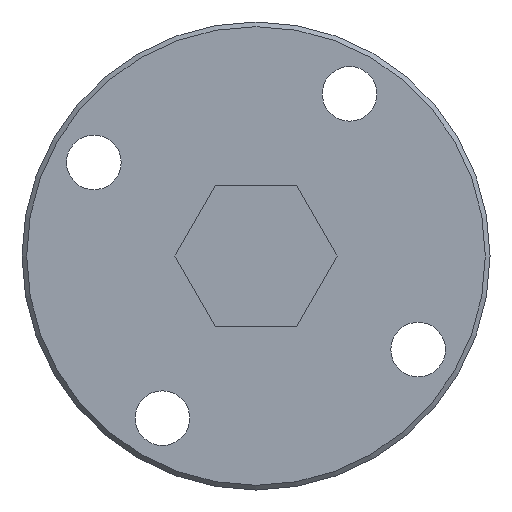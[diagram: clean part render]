
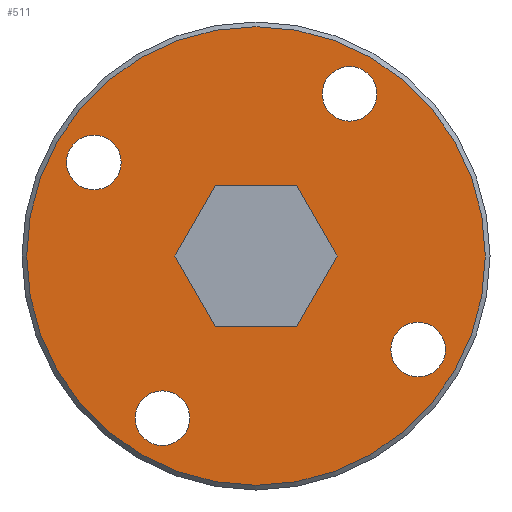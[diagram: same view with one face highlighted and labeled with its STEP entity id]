
A CAD part, left-side view. The second image highlights one B-rep face of the part: STEP entity #511.
In plain terms, the highlighted planar face has unit normal (-1, 0, 0).
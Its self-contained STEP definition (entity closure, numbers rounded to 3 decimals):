
#377=CARTESIAN_POINT('',(140.0,14.7,0.));
#378=VERTEX_POINT('',#377);
#379=CARTESIAN_POINT('',(140.0,0.0,0.0));
#380=DIRECTION('',(1.0,0.0,0.0));
#381=DIRECTION('',(0.0,-1.0,0.0));
#382=AXIS2_PLACEMENT_3D('',#379,#380,#381);
#383=CIRCLE('',#382,14.7);
#384=EDGE_CURVE('',#378,#378,#383,.T.);
#409=CARTESIAN_POINT('',(140.0,0.0,4.5));
#410=DIRECTION('',(-1.0,0.0,0.0));
#411=DIRECTION('',(0.0,0.0,1.0));
#412=AXIS2_PLACEMENT_3D('',#409,#410,#411);
#413=PLANE('',#412);
#414=ORIENTED_EDGE('',*,*,#384,.F.);
#415=EDGE_LOOP('',(#414));
#416=FACE_OUTER_BOUND('',#415,.T.);
#417=CARTESIAN_POINT('',(140.0,-2.598,-4.5));
#418=VERTEX_POINT('',#417);
#419=CARTESIAN_POINT('',(140.0,2.598,-4.5));
#420=VERTEX_POINT('',#419);
#421=CARTESIAN_POINT('',(140.0,-2.598,-4.5));
#422=DIRECTION('',(0.0,1.0,0.0));
#423=VECTOR('',#422,5.196);
#424=LINE('',#421,#423);
#425=EDGE_CURVE('',#418,#420,#424,.T.);
#426=ORIENTED_EDGE('',*,*,#425,.T.);
#427=CARTESIAN_POINT('',(140.0,5.196,0.));
#428=VERTEX_POINT('',#427);
#429=CARTESIAN_POINT('',(140.0,2.598,-4.5));
#430=DIRECTION('',(0.0,0.5,0.866));
#431=VECTOR('',#430,5.196);
#432=LINE('',#429,#431);
#433=EDGE_CURVE('',#420,#428,#432,.T.);
#434=ORIENTED_EDGE('',*,*,#433,.T.);
#435=CARTESIAN_POINT('',(140.0,2.598,4.5));
#436=VERTEX_POINT('',#435);
#437=CARTESIAN_POINT('',(140.0,5.196,0.));
#438=DIRECTION('',(0.0,-0.5,0.866));
#439=VECTOR('',#438,5.196);
#440=LINE('',#437,#439);
#441=EDGE_CURVE('',#428,#436,#440,.T.);
#442=ORIENTED_EDGE('',*,*,#441,.T.);
#443=CARTESIAN_POINT('',(140.0,-2.598,4.5));
#444=VERTEX_POINT('',#443);
#445=CARTESIAN_POINT('',(140.0,2.598,4.5));
#446=DIRECTION('',(0.0,-1.0,0.0));
#447=VECTOR('',#446,5.196);
#448=LINE('',#445,#447);
#449=EDGE_CURVE('',#436,#444,#448,.T.);
#450=ORIENTED_EDGE('',*,*,#449,.T.);
#451=CARTESIAN_POINT('',(140.0,-5.196,0.0));
#452=VERTEX_POINT('',#451);
#453=CARTESIAN_POINT('',(140.0,-2.598,4.5));
#454=DIRECTION('',(0.0,-0.5,-0.866));
#455=VECTOR('',#454,5.196);
#456=LINE('',#453,#455);
#457=EDGE_CURVE('',#444,#452,#456,.T.);
#458=ORIENTED_EDGE('',*,*,#457,.T.);
#459=CARTESIAN_POINT('',(140.0,-5.196,0.0));
#460=DIRECTION('',(0.0,0.5,-0.866));
#461=VECTOR('',#460,5.196);
#462=LINE('',#459,#461);
#463=EDGE_CURVE('',#452,#418,#462,.T.);
#464=ORIENTED_EDGE('',*,*,#463,.T.);
#465=EDGE_LOOP('',(#426,#434,#442,#450,#458,#464));
#466=FACE_BOUND('',#465,.T.);
#467=CARTESIAN_POINT('',(140.0,-4.25,10.392));
#468=VERTEX_POINT('',#467);
#469=CARTESIAN_POINT('',(140.0,-6.,10.392));
#470=DIRECTION('',(1.0,0.0,0.0));
#471=DIRECTION('',(0.0,1.0,0.0));
#472=AXIS2_PLACEMENT_3D('',#469,#470,#471);
#473=CIRCLE('',#472,1.75);
#474=EDGE_CURVE('',#468,#468,#473,.T.);
#475=ORIENTED_EDGE('',*,*,#474,.T.);
#476=EDGE_LOOP('',(#475));
#477=FACE_BOUND('',#476,.T.);
#478=CARTESIAN_POINT('',(140.0,-10.392,-4.25));
#479=VERTEX_POINT('',#478);
#480=CARTESIAN_POINT('',(140.0,-10.392,-6.));
#481=DIRECTION('',(1.0,0.0,0.0));
#482=DIRECTION('',(0.0,0.0,1.0));
#483=AXIS2_PLACEMENT_3D('',#480,#481,#482);
#484=CIRCLE('',#483,1.75);
#485=EDGE_CURVE('',#479,#479,#484,.T.);
#486=ORIENTED_EDGE('',*,*,#485,.T.);
#487=EDGE_LOOP('',(#486));
#488=FACE_BOUND('',#487,.T.);
#489=CARTESIAN_POINT('',(140.0,4.25,-10.392));
#490=VERTEX_POINT('',#489);
#491=CARTESIAN_POINT('',(140.0,6.,-10.392));
#492=DIRECTION('',(1.0,0.0,0.0));
#493=DIRECTION('',(0.0,-1.0,0.0));
#494=AXIS2_PLACEMENT_3D('',#491,#492,#493);
#495=CIRCLE('',#494,1.75);
#496=EDGE_CURVE('',#490,#490,#495,.T.);
#497=ORIENTED_EDGE('',*,*,#496,.T.);
#498=EDGE_LOOP('',(#497));
#499=FACE_BOUND('',#498,.T.);
#500=CARTESIAN_POINT('',(140.0,10.392,4.25));
#501=VERTEX_POINT('',#500);
#502=CARTESIAN_POINT('',(140.0,10.392,6.));
#503=DIRECTION('',(1.0,0.0,0.0));
#504=DIRECTION('',(0.0,0.0,-1.0));
#505=AXIS2_PLACEMENT_3D('',#502,#503,#504);
#506=CIRCLE('',#505,1.75);
#507=EDGE_CURVE('',#501,#501,#506,.T.);
#508=ORIENTED_EDGE('',*,*,#507,.T.);
#509=EDGE_LOOP('',(#508));
#510=FACE_BOUND('',#509,.T.);
#511=ADVANCED_FACE('',(#416,#466,#477,#488,#499,#510),#413,.T.);
